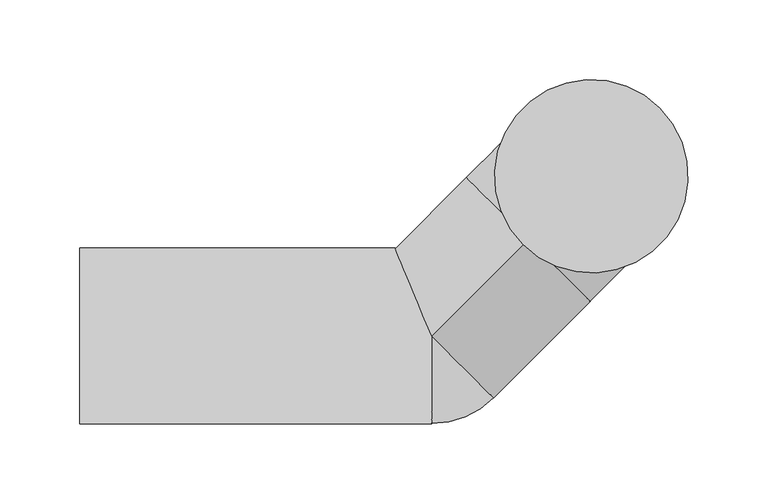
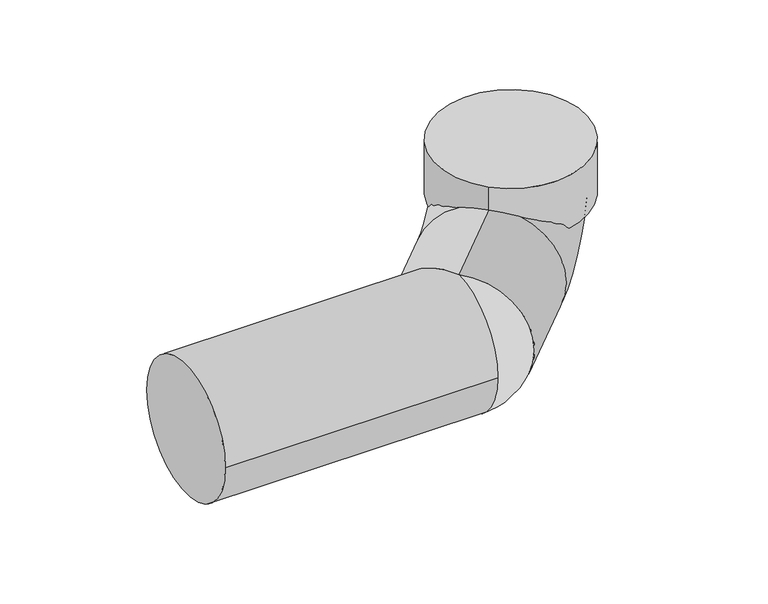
"""IFC4 building model written with IfcOpenShell, lengths in millimetres: pipe fitting geometry, NLRS_52_PIF_UN_PE aansluitbocht 90° voor wand-wc, rechts gebogen, met korte voorsprong_geb : DN90-100 / ø90-110."""

import ifcopenshell
import ifcopenshell.guid

model = None  # the IFC model being written
_history = None  # IfcOwnerHistory: only IFC2X3 demands one
_inside = {}  # id of a spatial element -> (the spatial element, [elements in it])
_under = {}  # id of a project, library or spatial element -> (it, [spatial elements below it])
_declared = {}  # id of a project -> (the project, [libraries it declares])
_typed = {}  # id of a type object -> (the type object, [elements of that type])
_made_of = {}  # id of a material, layer set ... -> (it, [elements and type objects made of it])


def new_model(schema):
    """Start an empty IFC model of exactly this schema.

    Asked for "IFC4X3", IfcOpenShell would pick the latest addendum, in which some entities
    have other attributes; the version numbers below select the first issue.
    IFC2X3 requires an IfcOwnerHistory on every rooted entity: one is made here for all.
    """
    global model, _history
    if schema == "IFC4X3":
        model = ifcopenshell.file(schema_version=(4, 3, 0, 0))
    else:
        model = ifcopenshell.file(schema=schema)
    _inside.clear()
    _under.clear()
    _declared.clear()
    _typed.clear()
    _made_of.clear()
    _history = None
    if model.schema == "IFC2X3":
        org = make("IfcOrganization", Name="unknown")
        user = make(
            "IfcPersonAndOrganization",
            ThePerson=make("IfcPerson", FamilyName="unknown"),
            TheOrganization=org,
        )
        app = make(
            "IfcApplication",
            ApplicationDeveloper=org,
            Version="unknown",
            ApplicationFullName="unknown",
            ApplicationIdentifier="unknown",
        )
        _history = make(
            "IfcOwnerHistory",
            OwningUser=user,
            OwningApplication=app,
            ChangeAction="ADDED",
            CreationDate=0,
        )
    return model


def make(cls, **values):
    """One entity of the class cls with the attributes given. An attribute that is None is left unset."""
    return model.create_entity(
        cls, **{name: value for name, value in values.items() if value is not None}
    )


def rooted(cls, **values):
    """An entity with a GlobalId (a new one), such as an element, a storey or a relation."""
    return make(cls, GlobalId=ifcopenshell.guid.new(), OwnerHistory=_history, **values)


def si_unit(unit_type, name, prefix=None):
    """IfcSIUnit, for example si_unit("LENGTHUNIT", "METRE", prefix="MILLI")."""
    return make("IfcSIUnit", UnitType=unit_type, Prefix=prefix, Name=name)


def assignment(units):
    """IfcUnitAssignment: the units of a project."""
    return None if units is None else make("IfcUnitAssignment", Units=units)


def point(xyz):
    """IfcCartesianPoint."""
    return None if xyz is None else make("IfcCartesianPoint", Coordinates=xyz)


def direction(xyz):
    """IfcDirection."""
    return None if xyz is None else make("IfcDirection", DirectionRatios=xyz)


def frame(location, z_axis=None, x_axis=None):
    """IfcAxis2Placement3D, a coordinate frame: its origin and axes. An axis left out is left unset."""
    return make(
        "IfcAxis2Placement3D",
        Location=point(location),
        Axis=direction(z_axis),
        RefDirection=direction(x_axis),
    )


def frame_2d(location, x_axis=None):
    """IfcAxis2Placement2D, a coordinate frame in the plane: its origin and x axis."""
    return make(
        "IfcAxis2Placement2D", Location=point(location), RefDirection=direction(x_axis)
    )


def origin():
    """The frame at (0, 0, 0) with its axes left unset."""
    return frame((0.0, 0.0, 0.0))


def place(relative_to, where):
    """IfcLocalPlacement: puts the frame where relative to a parent placement (None: the world)."""
    return make(
        "IfcLocalPlacement", PlacementRelTo=relative_to, RelativePlacement=where
    )


def context(
    kind, dimensions, precision=None, world=None, true_north=None, identifier=None
):
    """IfcGeometricRepresentationContext, for example the 3D "Model" context."""
    return make(
        "IfcGeometricRepresentationContext",
        ContextIdentifier=identifier,
        ContextType=kind,
        CoordinateSpaceDimension=dimensions,
        Precision=precision,
        WorldCoordinateSystem=world,
        TrueNorth=true_north,
    )


def project(units=None, contexts=None):
    """IfcProject with its units and contexts."""
    return rooted(
        "IfcProject",
        Name="project",
        RepresentationContexts=contexts,
        UnitsInContext=assignment(units),
    )


def spatial(cls, under=None, at=None, **own):
    """A site, building, storey or space (cls), placed at a placement, below another one or the project."""
    s = rooted(cls, ObjectPlacement=at, **own)
    if under is not None:
        _under.setdefault(under.id(), (under, []))[1].append(s)
    return s


def circle_curve(where, radius):
    """IfcCircle in the frame where."""
    return make("IfcCircle", Position=where, Radius=radius)


def ellipse_curve(where, semi_axis1, semi_axis2):
    """IfcEllipse in the frame where."""
    return make(
        "IfcEllipse", Position=where, SemiAxis1=semi_axis1, SemiAxis2=semi_axis2
    )


def trimmed(basis, trim1, trim2, sense, master):
    """IfcTrimmedCurve: the piece of a basis curve between two trims."""
    return make(
        "IfcTrimmedCurve",
        BasisCurve=basis,
        Trim1=trim1,
        Trim2=trim2,
        SenseAgreement=sense,
        MasterRepresentation=master,
    )


def segment(curve, same_sense, transition):
    """IfcCompositeCurveSegment."""
    return make(
        "IfcCompositeCurveSegment",
        Transition=transition,
        SameSense=same_sense,
        ParentCurve=curve,
    )


def composite_curve(segments, self_intersect=None):
    """IfcCompositeCurve: segments joined end to end."""
    return make("IfcCompositeCurve", Segments=segments, SelfIntersect=self_intersect)


def outline(outer, holes=None, kind="AREA"):
    """IfcArbitraryClosedProfileDef: a profile drawn as a closed curve; with holes, ...WithVoids."""
    if holes is None:
        return make("IfcArbitraryClosedProfileDef", ProfileType=kind, OuterCurve=outer)
    return make(
        "IfcArbitraryProfileDefWithVoids",
        ProfileType=kind,
        OuterCurve=outer,
        InnerCurves=holes,
    )


def extrude(swept, where, along, depth):
    """IfcExtrudedAreaSolid: the profile swept, set in the frame where, extruded along a direction by depth."""
    return make(
        "IfcExtrudedAreaSolid",
        SweptArea=swept,
        Position=where,
        ExtrudedDirection=direction(along),
        Depth=depth,
    )


def shape(context_of_items, identifier, shape_type, items):
    """IfcShapeRepresentation: the items that make up one representation, for example the "Body"."""
    return make(
        "IfcShapeRepresentation",
        ContextOfItems=context_of_items,
        RepresentationIdentifier=identifier,
        RepresentationType=shape_type,
        Items=items,
    )


def source(mapping_origin, context_of_items, identifier, shape_type, items):
    """IfcRepresentationMap: a shape defined once, which mapped items show again and again."""
    return make(
        "IfcRepresentationMap",
        MappingOrigin=mapping_origin,
        MappedRepresentation=shape(context_of_items, identifier, shape_type, items),
    )


def transform(
    local_origin,
    x_axis=None,
    y_axis=None,
    z_axis=None,
    scale=None,
    scale2=None,
    scale3=None,
    uniform=True,
):
    """IfcCartesianTransformationOperator3D, or its non-uniform kind. x_axis, y_axis, z_axis: its Axis1, 2, 3."""
    if uniform:
        return make(
            "IfcCartesianTransformationOperator3D",
            Axis1=direction(x_axis),
            Axis2=direction(y_axis),
            LocalOrigin=point(local_origin),
            Scale=scale,
            Axis3=direction(z_axis),
        )
    return make(
        "IfcCartesianTransformationOperator3DnonUniform",
        Axis1=direction(x_axis),
        Axis2=direction(y_axis),
        LocalOrigin=point(local_origin),
        Scale=scale,
        Axis3=direction(z_axis),
        Scale2=scale2,
        Scale3=scale3,
    )


def mapped(mapping_source, mapping_target):
    """IfcMappedItem: shows the shape of a source again, moved by a transform."""
    return make(
        "IfcMappedItem", MappingSource=mapping_source, MappingTarget=mapping_target
    )


def made_of(thing, what):
    """Note that an element or type object is made of a material, layer set ...; save() writes the relation."""
    if what is not None:
        _made_of.setdefault(what.id(), (what, []))[1].append(thing)
    return thing


def element(
    cls,
    number,
    at=None,
    inside=None,
    cuts=None,
    type_object=None,
    material=None,
    context=None,
    identifier="Body",
    shape_type=None,
    held_by="IfcProductDefinitionShape",
    body=None,
    shapes=None,
    **own,
):
    """One element of the class cls, such as IfcWall. Its Tag is "e" and its number.

    at: its placement. inside: the storey or other place that contains it. cuts: it is an
    opening in that element (IfcRelVoidsElement). A single representation is given by context,
    identifier, shape_type and body (its items); several are given by shapes. held_by: the class
    of the entity that holds the representations. save() writes the other relations.
    """
    e = rooted(cls, Tag="e%d" % number, ObjectPlacement=at, **own)
    if body is not None:
        shapes = [shape(context, identifier, shape_type, body)]
    if shapes is not None:
        e.Representation = make(held_by, Representations=shapes)
    if inside is not None:
        _inside.setdefault(inside.id(), (inside, []))[1].append(e)
    if cuts is not None:
        rooted(
            "IfcRelVoidsElement", RelatingBuildingElement=cuts, RelatedOpeningElement=e
        )
    if type_object is not None:
        _typed.setdefault(type_object.id(), (type_object, []))[1].append(e)
    return made_of(e, material)


def aggregate(whole, parts):
    """IfcRelAggregates: a whole, such as a stair, and the parts it consists of."""
    return rooted("IfcRelAggregates", RelatingObject=whole, RelatedObjects=parts)


def save(model, path):
    """Write the relations noted so far, then the file.

    IfcRelAggregates (storeys below a building ...), IfcRelContainedInSpatialStructure (elements
    in a storey), IfcRelDefinesByType, IfcRelAssociatesMaterial and IfcRelDeclares: one each for
    every whole, place, type object, material and project.
    """
    for whole, parts in _under.values():
        aggregate(whole, parts)
    for where, things in _inside.values():
        rooted(
            "IfcRelContainedInSpatialStructure",
            RelatedElements=things,
            RelatingStructure=where,
        )
    for kind, things in _typed.values():
        rooted("IfcRelDefinesByType", RelatedObjects=things, RelatingType=kind)
    for what, things in _made_of.values():
        rooted("IfcRelAssociatesMaterial", RelatedObjects=things, RelatingMaterial=what)
    for by, libraries in _declared.values():
        rooted("IfcRelDeclares", RelatingContext=by, RelatedDefinitions=libraries)
    model.write(path)


def plane_surface(at):
    """IfcPlane: the flat surface through the origin of the frame at, square to its z axis."""
    return make("IfcPlane", Position=at)


def cylinder_surface(at, radius):
    """IfcCylindricalSurface: all points at the distance radius from the z axis of the frame at."""
    return make("IfcCylindricalSurface", Position=at, Radius=radius)


def revolved_surface(curve, axis_point, axis_direction):
    """IfcSurfaceOfRevolution: the curve turned about the line through axis_point along axis_direction."""
    return make(
        "IfcSurfaceOfRevolution",
        SweptCurve=make("IfcArbitraryOpenProfileDef", ProfileType="CURVE", Curve=curve),
        AxisPosition=make("IfcAxis1Placement", Location=point(axis_point), Axis=direction(axis_direction)),
    )


def advanced_brep(points, edges, surfaces, faces):
    """IfcAdvancedBrep: a solid bounded by faces that lie on surfaces and meet in shared edges.

    An edge is (start, end): straight between two places in points (the first is 0);
    or (start, end, curve); or (start, end, curve, False) where it runs against its curve.
    A face is (place in surfaces, loops), or (place, loops, False) where it looks against
    its surface's normal. A loop lists edges by number (the first is 1), with a minus sign
    where the edge is run from its end to its start. The first loop is the outer one.
    """
    corners = [point(p) for p in points]
    vertices = [make("IfcVertexPoint", VertexGeometry=c) for c in corners]
    made = []
    for start, end, *more in edges:
        made.append(
            make(
                "IfcEdgeCurve",
                EdgeStart=vertices[start],
                EdgeEnd=vertices[end],
                EdgeGeometry=more[0] if more else make("IfcPolyline", Points=[corners[start], corners[end]]),
                SameSense=more[1] if len(more) > 1 else True,
            )
        )
    hull = []
    for where, loops, *sense in faces:
        bounds = []
        for j, loop in enumerate(loops):
            ring = [make("IfcOrientedEdge", EdgeElement=made[abs(k) - 1], Orientation=k > 0) for k in loop]
            bounds.append(
                make(
                    "IfcFaceOuterBound" if j == 0 else "IfcFaceBound",
                    Bound=make("IfcEdgeLoop", EdgeList=ring),
                    Orientation=True,
                )
            )
        hull.append(make("IfcAdvancedFace", Bounds=bounds, FaceSurface=surfaces[where], SameSense=sense[0] if sense else True))
    return make("IfcAdvancedBrep", Outer=make("IfcClosedShell", CfsFaces=hull))


def pipe_fitting_3ff8aea3(model_context):
    return source(origin(), model_context, "Body", "SolidModel", [
        advanced_brep(
        [(-100.0, 0.0, 55.0), (-39.5979797, 60.4020203, 55.0), (-39.5979797, 60.4020203, -55.0), (-100.0, 0.0, -55.0), (-122.7817459, 55.0, 0.0), (-38.890873, 61.109127, 56.0), (38.890873, 138.890873, 56.0), (-320.0, -55.0, 0.0), (-320.0, 55.0, 0.0), (-100.0, -55.0, 0.0)],
        [
            (0, 1),
            (1, 2, circle_curve(frame((-39.5979797, 60.4020203, 0.0), z_axis=(-0.7071067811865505, -0.7071067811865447, 0.0), x_axis=(0.0, 0.0, -1.0)), 55.0)),
            (2, 3),
            (3, 4, ellipse_curve(frame((-100.0, 0.0, 0.0), z_axis=(0.9238795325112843, 0.38268343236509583, 0.0), x_axis=(0.38268343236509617, -0.9238795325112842, 0.0)), 59.531571, 55.0)),
            (4, 0, ellipse_curve(frame((-100.0, 0.0, 0.0), z_axis=(0.9238795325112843, 0.38268343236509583, 0.0), x_axis=(0.38268343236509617, -0.9238795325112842, 0.0)), 59.531571, 55.0)),
            (0, 3, circle_curve(frame((-100.0, 0.0, 0.0), z_axis=(0.7071067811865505, 0.7071067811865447, 0.0), x_axis=(0.0, 0.0, -1.0)), 55.0)),
            (2, 1, circle_curve(frame((-39.5979797, 60.4020203, 0.0), z_axis=(-0.7071067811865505, -0.7071067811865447, 0.0), x_axis=(0.0, 0.0, -1.0)), 55.0)),
            (5, 6, circle_curve(frame((0.0, 100.0, 56.0), z_axis=(0.0, 0.0, 1.0), x_axis=(0.7071067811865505, 0.7071067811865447, 0.0)), 55.0)),
            (6, 5, circle_curve(frame((0.0, 100.0, 56.0), z_axis=(0.0, 0.0, 1.0), x_axis=(0.7071067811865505, 0.7071067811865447, 0.0)), 55.0)),
            (1, 5, circle_curve(frame((-39.5979797, 60.4020203, 56.0), z_axis=(0.7071067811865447, -0.7071067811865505, 0.0), x_axis=(0.0, 0.0, -1.0)), 1.0)),
            (6, 2, circle_curve(frame((-39.5979797, 60.4020203, 56.0), z_axis=(-0.7071067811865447, 0.7071067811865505, 0.0), x_axis=(0.0, 0.0, -1.0)), 111.0)),
            (7, 8, circle_curve(frame((-320.0, 0.0, 0.0), z_axis=(-1.0, 0.0, 0.0), x_axis=(0.0, 1.0, 0.0)), 55.0)),
            (8, 7, circle_curve(frame((-320.0, 0.0, 0.0), z_axis=(-1.0, 0.0, 0.0), x_axis=(0.0, 1.0, 0.0)), 55.0)),
            (8, 4),
            (3, 9, circle_curve(frame((-100.0, 0.0, 0.0), z_axis=(-1.0, 0.0, 0.0), x_axis=(0.0, 1.0, 0.0)), 55.0)),
            (9, 7),
            (9, 0, circle_curve(frame((-100.0, 0.0, 0.0), z_axis=(-1.0, 0.0, 0.0), x_axis=(0.0, 1.0, 0.0)), 55.0)),
        ],
        [
            cylinder_surface(frame((-100.0, 0.0, 0.0), z_axis=(-0.7071067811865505, -0.7071067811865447, 0.0), x_axis=(0.0, 0.0, -1.0)), 55.0),
            plane_surface(frame((0.0, 100.0, 56.0), z_axis=(0.0, 0.0, 1.0), x_axis=(-0.7071067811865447, 0.7071067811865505, 0.0))),
            revolved_surface(trimmed(ellipse_curve(frame((-39.5979797, 60.4020203, 0.0), z_axis=(-0.7071067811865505, -0.7071067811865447, 0.0), x_axis=(0.0, 0.0, -1.0)), 55.0, 55.0), [point((-39.5979797, 60.4020203, 55.0))], [point((-39.5979797, 60.4020203, -55.0))], True, "CARTESIAN"), (-39.5979797, 60.4020203, 56.0), (0.7071067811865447, -0.7071067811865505, 0.0)),
            revolved_surface(trimmed(ellipse_curve(frame((-39.5979797, 60.4020203, 0.0), z_axis=(-0.7071067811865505, -0.7071067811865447, 0.0), x_axis=(0.0, 0.0, -1.0)), 55.0, 55.0), [point((-39.5979797, 60.4020203, -55.0))], [point((-39.5979797, 60.4020203, 55.0))], True, "CARTESIAN"), (-39.5979797, 60.4020203, 56.0), (0.7071067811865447, -0.7071067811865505, 0.0)),
            plane_surface(frame((-320.0, 55.0, 0.0), z_axis=(-1.0, 0.0, 0.0), x_axis=(0.0, 0.0, -1.0))),
            cylinder_surface(frame((-320.0, 0.0, 0.0), z_axis=(1.0, 0.0, 0.0), x_axis=(0.0, 1.0, 0.0)), 55.0),
            revolved_surface(trimmed(ellipse_curve(frame((-100.0, 0.0, 0.0), z_axis=(1.0, 0.0, 0.0), x_axis=(0.0, -1.0, 0.0)), 55.0, 55.0), [point((-100.0, 0.0, 55.0))], [point((-100.0, 0.0, -55.0))], True, "CARTESIAN"), (-100.0, 0.0, 195.0), (0.0, 0.0, -1.0)),
        ],
        [
            (0, [[1, 2, 3, 4, 5]]),
            (0, [[-1, 6, -3, 7]]),
            (1, [[8, 9]]),
            (2, [[-2, 10, -9, 11]]),
            (3, [[-7, -11, -8, -10]]),
            (4, [[12, 13]]),
            (5, [[-13, 14, -4, 15, 16]]),
            (5, [[-12, -16, 17, -5, -14]]),
            (6, [[-6, -17, -15]]),
        ],
    ),
        extrude(outline(composite_curve([segment(trimmed(circle_curve(frame_2d((0.0, 100.0)), 60.5), [point((-42.7799603, 57.2200397))], [point((42.7799603, 142.7799603))], False, "CARTESIAN"), True, "CONTINUOUS"), segment(trimmed(circle_curve(frame_2d((0.0, 100.0)), 60.5), [point((42.7799603, 142.7799603))], [point((-42.7799603, 57.2200397))], False, "CARTESIAN"), True, "CONTINUOUS")], self_intersect=False)), frame((0.0, 0.0, 30.0), z_axis=(0.0, 0.0, 1.0), x_axis=(1.0, 0.0, 0.0)), (0.0, 0.0, 1.0), 45.0),
    ])


if __name__ == "__main__":
    model = new_model("IFC4")
    model_context = context("Model", 3, world=origin())
    ifc_project = project(units=[si_unit("LENGTHUNIT", "METRE", prefix="MILLI")], contexts=[model_context])
    site = spatial("IfcSite", under=ifc_project)
    building = spatial("IfcBuilding", under=site)
    placement = place(None, origin())
    pipe_fitting_shape = pipe_fitting_3ff8aea3(model_context)
    element("IfcPipeFitting", 1, ObjectType="NLRS_52_PIF_UN_PE aansluitbocht 90° voor wand-wc, rechts gebogen, met korte voorsprong_geb : DN90-100 / ø90-110", at=placement, inside=building, context=model_context, shape_type="MappedRepresentation", body=[
        mapped(pipe_fitting_shape, transform((0.0, 0.0, 0.0), x_axis=(1.0, 0.0, 0.0), y_axis=(0.0, 1.0, 0.0), z_axis=(0.0, 0.0, 1.0))),
    ])
    save(model, "model.ifc")
